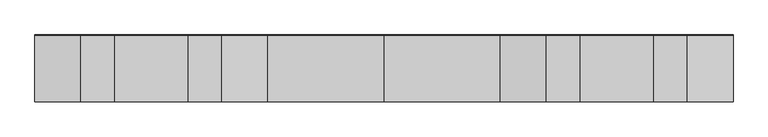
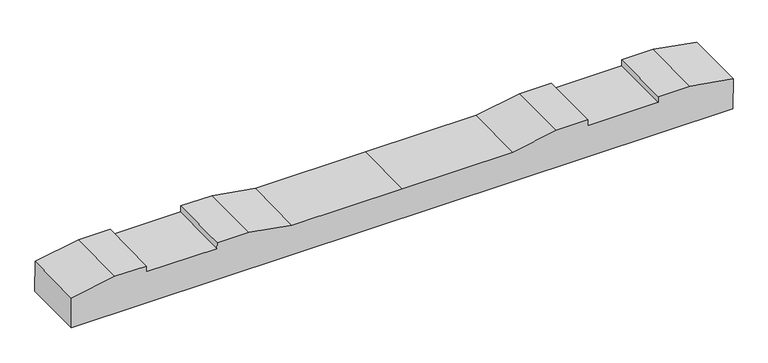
"""IFC4 building model written with IfcOpenShell, lengths in millimetres: proxy geometry, 轨枕-立面角度 : 轨枕-立面角度."""

import ifcopenshell
import ifcopenshell.guid

model = None  # the IFC model being written
_history = None  # IfcOwnerHistory: only IFC2X3 demands one
_inside = {}  # id of a spatial element -> (the spatial element, [elements in it])
_under = {}  # id of a project, library or spatial element -> (it, [spatial elements below it])
_declared = {}  # id of a project -> (the project, [libraries it declares])
_typed = {}  # id of a type object -> (the type object, [elements of that type])
_made_of = {}  # id of a material, layer set ... -> (it, [elements and type objects made of it])


def new_model(schema):
    """Start an empty IFC model of exactly this schema.

    Asked for "IFC4X3", IfcOpenShell would pick the latest addendum, in which some entities
    have other attributes; the version numbers below select the first issue.
    IFC2X3 requires an IfcOwnerHistory on every rooted entity: one is made here for all.
    """
    global model, _history
    if schema == "IFC4X3":
        model = ifcopenshell.file(schema_version=(4, 3, 0, 0))
    else:
        model = ifcopenshell.file(schema=schema)
    _inside.clear()
    _under.clear()
    _declared.clear()
    _typed.clear()
    _made_of.clear()
    _history = None
    if model.schema == "IFC2X3":
        org = make("IfcOrganization", Name="unknown")
        user = make(
            "IfcPersonAndOrganization",
            ThePerson=make("IfcPerson", FamilyName="unknown"),
            TheOrganization=org,
        )
        app = make(
            "IfcApplication",
            ApplicationDeveloper=org,
            Version="unknown",
            ApplicationFullName="unknown",
            ApplicationIdentifier="unknown",
        )
        _history = make(
            "IfcOwnerHistory",
            OwningUser=user,
            OwningApplication=app,
            ChangeAction="ADDED",
            CreationDate=0,
        )
    return model


def make(cls, **values):
    """One entity of the class cls with the attributes given. An attribute that is None is left unset."""
    return model.create_entity(
        cls, **{name: value for name, value in values.items() if value is not None}
    )


def rooted(cls, **values):
    """An entity with a GlobalId (a new one), such as an element, a storey or a relation."""
    return make(cls, GlobalId=ifcopenshell.guid.new(), OwnerHistory=_history, **values)


def si_unit(unit_type, name, prefix=None):
    """IfcSIUnit, for example si_unit("LENGTHUNIT", "METRE", prefix="MILLI")."""
    return make("IfcSIUnit", UnitType=unit_type, Prefix=prefix, Name=name)


def assignment(units):
    """IfcUnitAssignment: the units of a project."""
    return None if units is None else make("IfcUnitAssignment", Units=units)


def point(xyz):
    """IfcCartesianPoint."""
    return None if xyz is None else make("IfcCartesianPoint", Coordinates=xyz)


def direction(xyz):
    """IfcDirection."""
    return None if xyz is None else make("IfcDirection", DirectionRatios=xyz)


def frame(location, z_axis=None, x_axis=None):
    """IfcAxis2Placement3D, a coordinate frame: its origin and axes. An axis left out is left unset."""
    return make(
        "IfcAxis2Placement3D",
        Location=point(location),
        Axis=direction(z_axis),
        RefDirection=direction(x_axis),
    )


def origin():
    """The frame at (0, 0, 0) with its axes left unset."""
    return frame((0.0, 0.0, 0.0))


def place(relative_to, where):
    """IfcLocalPlacement: puts the frame where relative to a parent placement (None: the world)."""
    return make(
        "IfcLocalPlacement", PlacementRelTo=relative_to, RelativePlacement=where
    )


def context(
    kind, dimensions, precision=None, world=None, true_north=None, identifier=None
):
    """IfcGeometricRepresentationContext, for example the 3D "Model" context."""
    return make(
        "IfcGeometricRepresentationContext",
        ContextIdentifier=identifier,
        ContextType=kind,
        CoordinateSpaceDimension=dimensions,
        Precision=precision,
        WorldCoordinateSystem=world,
        TrueNorth=true_north,
    )


def project(units=None, contexts=None):
    """IfcProject with its units and contexts."""
    return rooted(
        "IfcProject",
        Name="project",
        RepresentationContexts=contexts,
        UnitsInContext=assignment(units),
    )


def spatial(cls, under=None, at=None, **own):
    """A site, building, storey or space (cls), placed at a placement, below another one or the project."""
    s = rooted(cls, ObjectPlacement=at, **own)
    if under is not None:
        _under.setdefault(under.id(), (under, []))[1].append(s)
    return s


def polyline(points):
    """IfcPolyline through the points."""
    return make("IfcPolyline", Points=[point(p) for p in points])


def outline(outer, holes=None, kind="AREA"):
    """IfcArbitraryClosedProfileDef: a profile drawn as a closed curve; with holes, ...WithVoids."""
    if holes is None:
        return make("IfcArbitraryClosedProfileDef", ProfileType=kind, OuterCurve=outer)
    return make(
        "IfcArbitraryProfileDefWithVoids",
        ProfileType=kind,
        OuterCurve=outer,
        InnerCurves=holes,
    )


def extrude(swept, where, along, depth):
    """IfcExtrudedAreaSolid: the profile swept, set in the frame where, extruded along a direction by depth."""
    return make(
        "IfcExtrudedAreaSolid",
        SweptArea=swept,
        Position=where,
        ExtrudedDirection=direction(along),
        Depth=depth,
    )


def shape(context_of_items, identifier, shape_type, items):
    """IfcShapeRepresentation: the items that make up one representation, for example the "Body"."""
    return make(
        "IfcShapeRepresentation",
        ContextOfItems=context_of_items,
        RepresentationIdentifier=identifier,
        RepresentationType=shape_type,
        Items=items,
    )


def source(mapping_origin, context_of_items, identifier, shape_type, items):
    """IfcRepresentationMap: a shape defined once, which mapped items show again and again."""
    return make(
        "IfcRepresentationMap",
        MappingOrigin=mapping_origin,
        MappedRepresentation=shape(context_of_items, identifier, shape_type, items),
    )


def transform(
    local_origin,
    x_axis=None,
    y_axis=None,
    z_axis=None,
    scale=None,
    scale2=None,
    scale3=None,
    uniform=True,
):
    """IfcCartesianTransformationOperator3D, or its non-uniform kind. x_axis, y_axis, z_axis: its Axis1, 2, 3."""
    if uniform:
        return make(
            "IfcCartesianTransformationOperator3D",
            Axis1=direction(x_axis),
            Axis2=direction(y_axis),
            LocalOrigin=point(local_origin),
            Scale=scale,
            Axis3=direction(z_axis),
        )
    return make(
        "IfcCartesianTransformationOperator3DnonUniform",
        Axis1=direction(x_axis),
        Axis2=direction(y_axis),
        LocalOrigin=point(local_origin),
        Scale=scale,
        Axis3=direction(z_axis),
        Scale2=scale2,
        Scale3=scale3,
    )


def mapped(mapping_source, mapping_target):
    """IfcMappedItem: shows the shape of a source again, moved by a transform."""
    return make(
        "IfcMappedItem", MappingSource=mapping_source, MappingTarget=mapping_target
    )


def made_of(thing, what):
    """Note that an element or type object is made of a material, layer set ...; save() writes the relation."""
    if what is not None:
        _made_of.setdefault(what.id(), (what, []))[1].append(thing)
    return thing


def element(
    cls,
    number,
    at=None,
    inside=None,
    cuts=None,
    type_object=None,
    material=None,
    context=None,
    identifier="Body",
    shape_type=None,
    held_by="IfcProductDefinitionShape",
    body=None,
    shapes=None,
    **own,
):
    """One element of the class cls, such as IfcWall. Its Tag is "e" and its number.

    at: its placement. inside: the storey or other place that contains it. cuts: it is an
    opening in that element (IfcRelVoidsElement). A single representation is given by context,
    identifier, shape_type and body (its items); several are given by shapes. held_by: the class
    of the entity that holds the representations. save() writes the other relations.
    """
    e = rooted(cls, Tag="e%d" % number, ObjectPlacement=at, **own)
    if body is not None:
        shapes = [shape(context, identifier, shape_type, body)]
    if shapes is not None:
        e.Representation = make(held_by, Representations=shapes)
    if inside is not None:
        _inside.setdefault(inside.id(), (inside, []))[1].append(e)
    if cuts is not None:
        rooted(
            "IfcRelVoidsElement", RelatingBuildingElement=cuts, RelatedOpeningElement=e
        )
    if type_object is not None:
        _typed.setdefault(type_object.id(), (type_object, []))[1].append(e)
    return made_of(e, material)


def aggregate(whole, parts):
    """IfcRelAggregates: a whole, such as a stair, and the parts it consists of."""
    return rooted("IfcRelAggregates", RelatingObject=whole, RelatedObjects=parts)


def save(model, path):
    """Write the relations noted so far, then the file.

    IfcRelAggregates (storeys below a building ...), IfcRelContainedInSpatialStructure (elements
    in a storey), IfcRelDefinesByType, IfcRelAssociatesMaterial and IfcRelDeclares: one each for
    every whole, place, type object, material and project.
    """
    for whole, parts in _under.values():
        aggregate(whole, parts)
    for where, things in _inside.values():
        rooted(
            "IfcRelContainedInSpatialStructure",
            RelatedElements=things,
            RelatingStructure=where,
        )
    for kind, things in _typed.values():
        rooted("IfcRelDefinesByType", RelatedObjects=things, RelatingType=kind)
    for what, things in _made_of.values():
        rooted("IfcRelAssociatesMaterial", RelatedObjects=things, RelatingMaterial=what)
    for by, libraries in _declared.values():
        rooted("IfcRelDeclares", RelatingContext=by, RelatedDefinitions=libraries)
    model.write(path)


def generic_models_beb8aa8f(model_context):
    return source(origin(), model_context, "Body", "SweptSolid", [
        extrude(outline(polyline([(0.0, 0.0), (2099.7669328, 0.0), (2099.7669328, -100.0206889), (1961.8834664, -124.5), (1861.8834664, -124.5), (1861.8834664, -104.5), (1637.8834664, -104.5), (1637.8834664, -124.5), (1537.8834664, -124.5), (1399.8834664, -100.0), (1049.8834664, -100.0), (699.8834664, -100.0), (561.8834664, -124.5), (461.8834664, -124.5), (461.8834664, -104.5), (237.8834664, -104.5), (237.8834664, -124.5), (137.8834664, -124.5), (0.0, -100.0206889), (0.0, 0.0)])), frame((-1049.8834664, -99.1396616, -105.3165585), z_axis=(0.0, 0.9999663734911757, 0.008200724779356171), x_axis=(1.0, 0.0, 0.0)), (0.0, 0.0, 1.0), 200.0),
    ])


if __name__ == "__main__":
    model = new_model("IFC4")
    model_context = context("Model", 3, world=origin())
    ifc_project = project(units=[si_unit("LENGTHUNIT", "METRE", prefix="MILLI")], contexts=[model_context])
    site = spatial("IfcSite", under=ifc_project)
    building = spatial("IfcBuilding", under=site)
    placement = place(None, origin())
    generic_models_shape = generic_models_beb8aa8f(model_context)
    element("IfcBuildingElementProxy", 1, Name="轨枕-立面角度 : 轨枕-立面角度", ObjectType="轨枕-立面角度 : 轨枕-立面角度", at=placement, inside=building, context=model_context, shape_type="MappedRepresentation", body=[
        mapped(generic_models_shape, transform((0.0, 0.0, 0.0), x_axis=(1.0, 0.0, 0.0), y_axis=(0.0, 1.0, 0.0), z_axis=(0.0, 0.0, 1.0))),
    ])
    save(model, "model.ifc")
